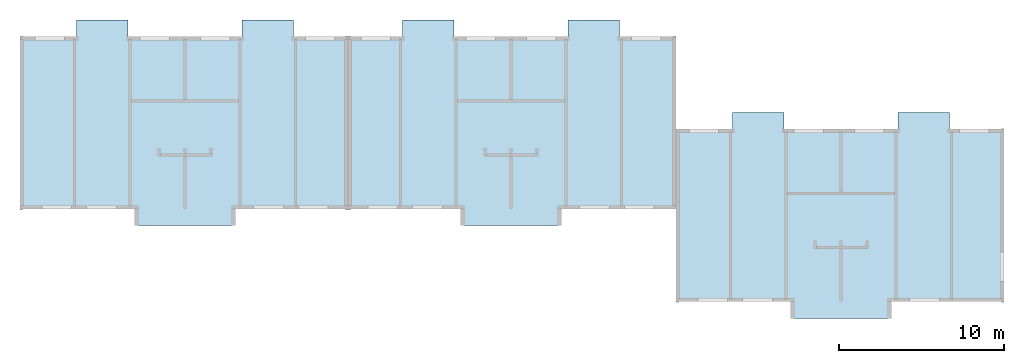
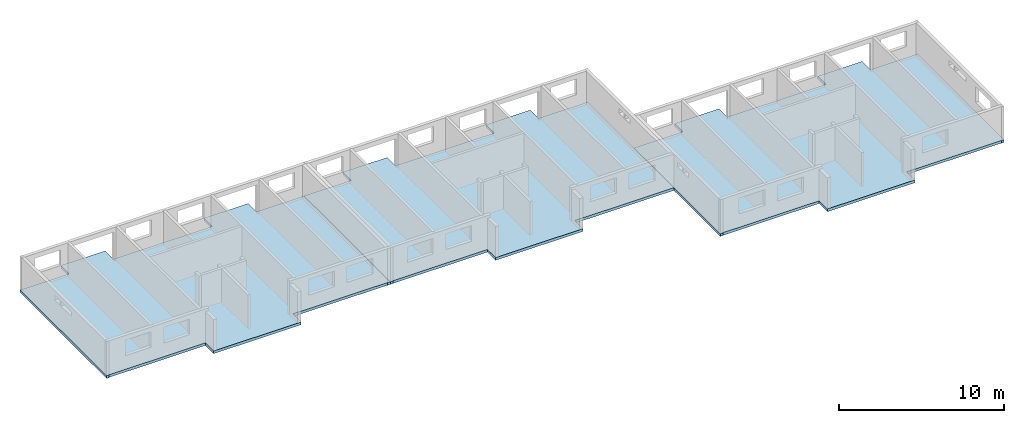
# One storey, part 1 of 9: 3 slabs.
"""IFC2X3 building model written with IfcOpenShell, lengths in millimetres."""

from ifc_helpers import new_model, entity, si_unit, converted_unit, frame, origin, origin_with_axes, place, context, subcontext, project, spatial, polyline, outline, extrude, material, layer, layer_set, layer_usage, element, save


model = new_model("IFC2X3")

# Units and contexts
model_context = context("Model", 3, precision=1e-05, world=origin())
plan_context = context("Plan", 3, precision=1e-05, world=origin())
body_context = subcontext(model_context, "Body", "Model", "MODEL_VIEW")
ifc_project = project(units=[si_unit("LENGTHUNIT", "METRE", prefix="MILLI"), converted_unit("PLANEANGLEUNIT", "DEGREE", entity("IfcPlaneAngleMeasure", 0.0174532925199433), si_unit("PLANEANGLEUNIT", "RADIAN"), dimensions=[0, 0, 0, 0, 0, 0, 0]), si_unit("AREAUNIT", "SQUARE_METRE"), si_unit("VOLUMEUNIT", "CUBIC_METRE")], contexts=[model_context, plan_context])

# Building, storey
building_placement = place(None, origin())
building = spatial("IfcBuilding", under=ifc_project, at=building_placement, Name="Bâtiment", CompositionType="ELEMENT")
storey_placement = place(building_placement, origin_with_axes())
storey = spatial("IfcBuildingStorey", under=building, at=storey_placement, Name="rdc", CompositionType="ELEMENT", Elevation=0.0)

# Slabs
ifc_material_1 = material()
ifc_layer_1 = layer(ifc_material_1, 200.0)
ifc_layer_set_1 = layer_set([ifc_layer_1])
ifc_layer_usage_1 = layer_usage(ifc_layer_set_1, "AXIS3", "POSITIVE", 0.0)
slab_1_placement = place(storey_placement, frame((19849.99999999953, -979.83699185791, -200.0), z_axis=(0.0, 0.0, 1.0), x_axis=(1.0, 0.0, 0.0)))
element("IfcSlab", 1, at=slab_1_placement, inside=storey, material=ifc_layer_usage_1, PredefinedType="FLOOR", context=body_context, shape_type="SweptSolid", body=[
    extrude(outline(polyline([(0.0, 979.8369918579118), (180.0, 979.8369918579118), (180.0, 999.99978542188), (6805.000546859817, 999.99978542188), (6805.000546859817, 9.321183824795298e-10), (12924.99999999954, 0.0), (12924.99999999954, 999.9145427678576), (19849.99999999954, 999.9145427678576), (19849.99999999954, 11469.91475734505), (19669.99999999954, 11469.91475734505), (19669.99999999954, 11449.91475734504), (16419.99999999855, 11449.91475734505), (16419.99999999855, 12449.91474661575), (13319.99990563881, 12449.91459790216), (13319.99999999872, 11449.9146810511), (6409.999999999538, 11449.91474661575), (6410.401314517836, 12449.91459790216), (3310.401371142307, 12449.91459790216), (3310.000008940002, 11449.9146810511), (180.0000000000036, 11449.91475734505), (180.0000000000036, 11469.91475734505), (3.637978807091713e-12, 11469.91475734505), (0.0, 979.8369918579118)])), origin_with_axes(), (0.0, 0.0, 1.0), 200.0),
])
ifc_material_2 = material()
ifc_layer_2 = layer(ifc_material_2, 200.0)
ifc_layer_set_2 = layer_set([ifc_layer_2])
ifc_layer_usage_2 = layer_usage(ifc_layer_set_2, "AXIS3", "POSITIVE", 0.0)
slab_2_placement = place(storey_placement, frame((-5.561300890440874e-12, -979.922234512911, -200.0), z_axis=(0.0, 0.0, 1.0), x_axis=(1.0, 0.0, 0.0)))
element("IfcSlab", 2, at=slab_2_placement, inside=storey, material=ifc_layer_usage_2, PredefinedType="FLOOR", context=body_context, shape_type="SweptSolid", body=[
    extrude(outline(polyline([(0.0, 979.922234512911), (180.0, 979.922234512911), (180.0, 999.9997854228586), (6925.000000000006, 999.9997854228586), (6925.000000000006, 0.0), (13045.00000000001, 0.08524265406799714), (13045.00000000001, 1000.085028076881), (19669.99999999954, 1000.085028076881), (19669.99999999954, 979.9222345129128), (19849.99999999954, 979.9222345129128), (19849.99999999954, 11470.00000000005), (19669.99999999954, 11470.00000000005), (19669.99999999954, 11450.00000000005), (16539.99999105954, 11449.9999237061), (16539.59862885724, 12449.99984055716), (13439.59868548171, 12449.99984055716), (13440.0, 11449.99998927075), (6530.00000000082, 11449.9999237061), (6530.000094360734, 12449.99984055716), (3430.000000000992, 12449.99998927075), (3430.000000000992, 11450.00000000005), (180.0000000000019, 11450.00000000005), (180.0000000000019, 11470.00000000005), (1.924546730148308e-12, 11470.00000000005), (0.0, 979.922234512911)])), origin_with_axes(), (0.0, 0.0, 1.0), 200.0),
])
ifc_material_3 = material()
ifc_layer_3 = layer(ifc_material_3, 200.0)
ifc_layer_set_3 = layer_set([ifc_layer_3])
ifc_layer_usage_3 = layer_usage(ifc_layer_set_3, "AXIS3", "POSITIVE", 0.0)
slab_3_placement = place(storey_placement, frame((39699.99999999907, -6579.922234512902, -200.0), z_axis=(0.0, 0.0, 1.0), x_axis=(1.0, 0.0, 0.0)))
element("IfcSlab", 3, at=slab_3_placement, inside=storey, material=ifc_layer_usage_3, PredefinedType="FLOOR", context=body_context, shape_type="SweptSolid", body=[
    extrude(outline(polyline([(0.0, 979.922234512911), (180.0, 979.922234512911), (180.0, 999.9997854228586), (6925.000000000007, 999.9997854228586), (6925.000000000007, 0.0), (13045.00000000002, 0.08524265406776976), (13045.00000000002, 1000.085028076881), (19669.99999999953, 1000.085028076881), (19669.99999999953, 979.9222345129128), (19849.99999999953, 979.9222345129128), (19849.99999999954, 11470.00000000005), (19669.99999999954, 11470.00000000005), (19669.99999999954, 11450.00000000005), (16539.99999105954, 11449.9999237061), (16539.59862885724, 12449.99984055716), (13439.59868548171, 12449.99984055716), (13440.00000000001, 11449.99998927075), (6530.000000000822, 11449.9999237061), (6530.000094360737, 12449.99984055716), (3430.000000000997, 12449.99998927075), (3430.000000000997, 11450.00000000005), (180.0, 11450.00000000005), (7.275957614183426e-12, 11450.00000000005), (0.0, 979.922234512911)])), origin_with_axes(), (0.0, 0.0, 1.0), 200.0),
])

save(model, "model.ifc")
